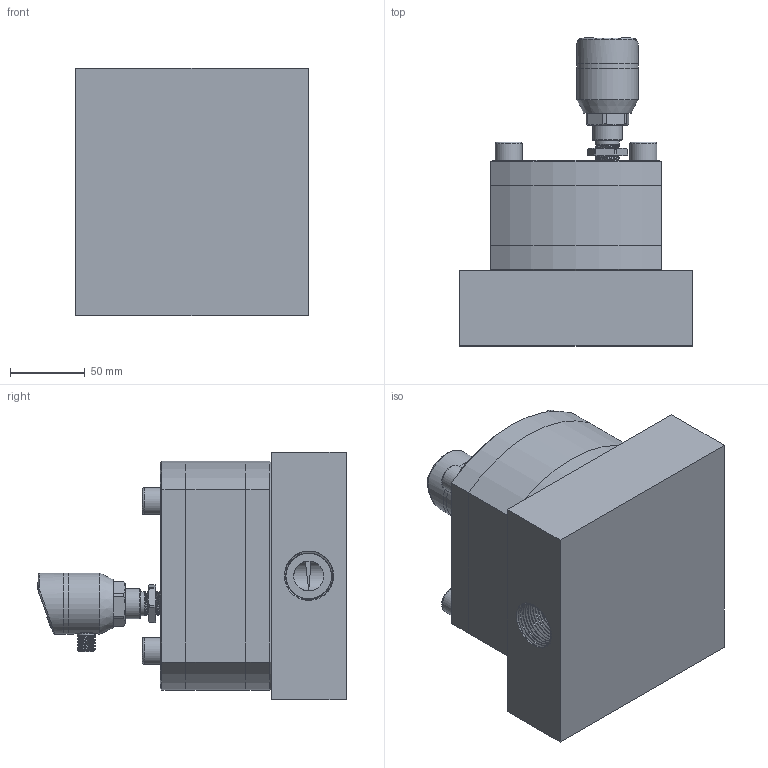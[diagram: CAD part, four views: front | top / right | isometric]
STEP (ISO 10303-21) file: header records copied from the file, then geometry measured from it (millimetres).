
FILE_DESCRIPTION( (''), '2;1');
FILE_NAME( 'QZKB_150L_M25_mounting-plate.step', '2025-05-06T15:27:24+08:00', (''), (''), '', '', '');
FILE_SCHEMA (('AUTOMOTIVE_DESIGN { 1 0 10303 214 3 1 1 1 }'));
Products named in the file (1): QZKB 150L_M25_mounting-plate
Bounding box: 155 x 205.8 x 165 mm (x, y, z)
Volume: 2205366.2 mm3; surface area: 352846.3 mm2
Topology: 23 solids, 25 shells, 989 faces, 2181 edges, 1305 vertices
Faces by surface type: plane 411, cylinder 249, cone 206, torus 69, bspline 48, sphere 6
Full cylindrical faces by diameter (mm): 1 x5, 2.7 x4, 6 x12, 8.4 x1, 9.7 x1, 9.8 x1, 10.1 x1, 10.3 x4, 10.5 x8, 11.6 x1, 11.701 x15, 12 x17, 14 x12, 15 x11, 15.9 x1, 17 x1, 18 x15, 20 x13, 23 x3, 26 x4, 26.1 x1, 37 x1, 41 x3
Entity records: 47772 total; most frequent: CARTESIAN_POINT 26266, DIRECTION 4184, ORIENTED_EDGE 3624, EDGE_CURVE 1812, AXIS2_PLACEMENT_3D 1747, EDGE_LOOP 1356, VERTEX_POINT 1217, ADVANCED_FACE 977
